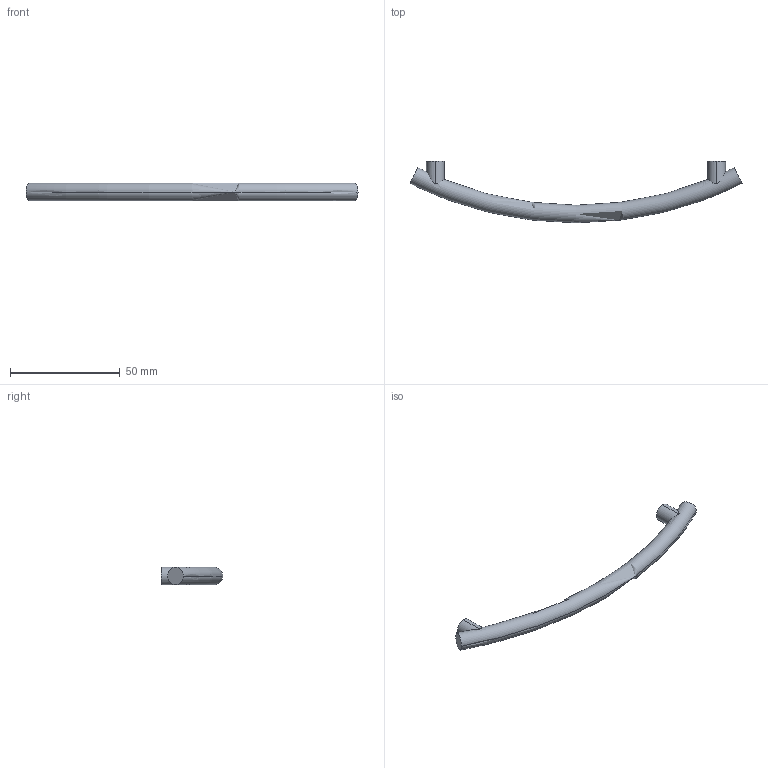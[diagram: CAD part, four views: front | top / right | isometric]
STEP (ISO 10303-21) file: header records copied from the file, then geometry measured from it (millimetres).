
FILE_DESCRIPTION( ( '' ), '1' );
FILE_NAME( 'C:/Documents and Settings/Sachin/Desktop/Sheet 10_1/stp/9070485.stp', '2013-10-22T08:46:37', ( '' ), ( '' ), ' ', ' ', ' ' );
FILE_SCHEMA( ( 'CONFIG_CONTROL_DESIGN' ) );
Length unit declared in the file: millimetre
Products named in the file (1): 1
Bounding box: 151 x 28 x 8 mm (x, y, z)
Volume: 8182.5 mm3; surface area: 4503.4 mm2
Topology: 1 solids, 1 shells, 24 faces, 62 edges, 42 vertices
Faces by surface type: plane 10, cylinder 8, torus 6
Entity records: 1052 total; most frequent: CARTESIAN_POINT 421, DIRECTION 126, ORIENTED_EDGE 124, EDGE_CURVE 62, AXIS2_PLACEMENT_3D 59, VERTEX_POINT 42, CIRCLE 34, EDGE_LOOP 26
